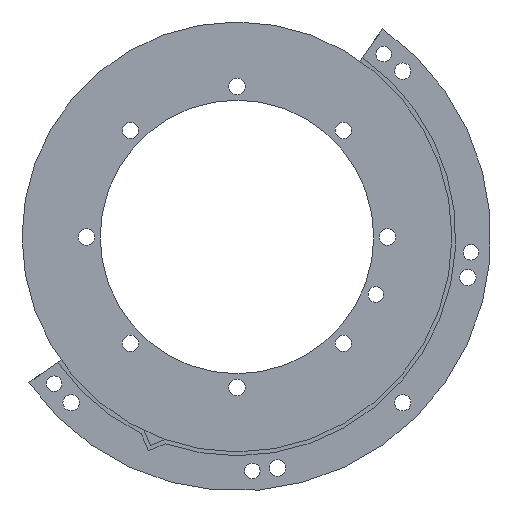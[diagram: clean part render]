
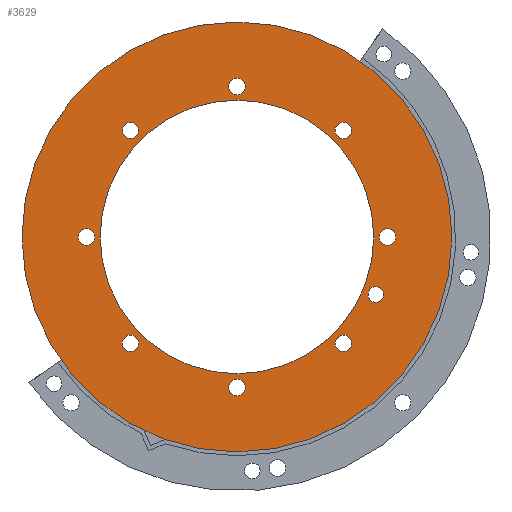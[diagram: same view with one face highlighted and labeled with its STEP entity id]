
A CAD part, front view. The second image highlights one B-rep face of the part: STEP entity #3629.
In plain terms, the highlighted planar face has unit normal (0, -1, 0).
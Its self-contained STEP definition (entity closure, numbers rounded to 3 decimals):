
#90 = FACE_OUTER_BOUND ( 'NONE', #2142, .T. ) ;
#111 = VERTEX_POINT ( 'NONE', #155 ) ;
#155 = CARTESIAN_POINT ( 'NONE',  ( 0., 0., -18.2 ) ) ;
#225 = CIRCLE ( 'NONE', #1048, 17.5 ) ;
#273 = FACE_BOUND ( 'NONE', #9563, .T. ) ;
#419 = DIRECTION ( 'NONE',  ( 0., 1., 0. ) ) ;
#480 = DIRECTION ( 'NONE',  ( 0., 1., 0. ) ) ;
#551 = DIRECTION ( 'NONE',  ( 0., 1., 0. ) ) ;
#589 = CARTESIAN_POINT ( 'NONE',  ( 0., 0., 0. ) ) ;
#618 = EDGE_LOOP ( 'NONE', ( #8562 ) ) ;
#679 = CARTESIAN_POINT ( 'NONE',  ( -19.25, 0., 1.05 ) ) ;
#684 = AXIS2_PLACEMENT_3D ( 'NONE', #9829, #419, #9172 ) ;
#698 = EDGE_LOOP ( 'NONE', ( #4777 ) ) ;
#731 = VERTEX_POINT ( 'NONE', #679 ) ;
#1048 = AXIS2_PLACEMENT_3D ( 'NONE', #589, #5452, #9435 ) ;
#1052 = FACE_BOUND ( 'NONE', #9439, .T. ) ;
#1161 = ORIENTED_EDGE ( 'NONE', *, *, #6258, .T. ) ;
#1222 = VERTEX_POINT ( 'NONE', #6410 ) ;
#1277 = CARTESIAN_POINT ( 'NONE',  ( 0., 0., 20.3 ) ) ;
#1604 = DIRECTION ( 'NONE',  ( 0., 0., 1. ) ) ;
#1657 = CARTESIAN_POINT ( 'NONE',  ( 0., 0., 0. ) ) ;
#1731 = AXIS2_PLACEMENT_3D ( 'NONE', #1657, #4076, #7971 ) ;
#1782 = DIRECTION ( 'NONE',  ( 0., 0., 1. ) ) ;
#1908 = EDGE_CURVE ( 'NONE', #731, #731, #9587, .T. ) ;
#1956 = ORIENTED_EDGE ( 'NONE', *, *, #6763, .T. ) ;
#1998 = VERTEX_POINT ( 'NONE', #5976 ) ;
#2081 = CARTESIAN_POINT ( 'NONE',  ( 0., 0., 19.25 ) ) ;
#2142 = EDGE_LOOP ( 'NONE', ( #2833 ) ) ;
#2153 = CARTESIAN_POINT ( 'NONE',  ( -13.612, 0., 14.662 ) ) ;
#2172 = EDGE_LOOP ( 'NONE', ( #9649 ) ) ;
#2180 = EDGE_CURVE ( 'NONE', #2387, #2387, #9102, .T. ) ;
#2373 = CIRCLE ( 'NONE', #6662, 1.05 ) ;
#2387 = VERTEX_POINT ( 'NONE', #10141 ) ;
#2391 = ORIENTED_EDGE ( 'NONE', *, *, #9835, .T. ) ;
#2482 = VERTEX_POINT ( 'NONE', #9807 ) ;
#2530 = AXIS2_PLACEMENT_3D ( 'NONE', #7594, #551, #8424 ) ;
#2833 = ORIENTED_EDGE ( 'NONE', *, *, #4354, .F. ) ;
#3011 = EDGE_CURVE ( 'NONE', #111, #111, #4970, .T. ) ;
#3057 = DIRECTION ( 'NONE',  ( 0., 1., 0. ) ) ;
#3074 = EDGE_LOOP ( 'NONE', ( #1161 ) ) ;
#3141 = EDGE_CURVE ( 'NONE', #1222, #1222, #6790, .T. ) ;
#3169 = DIRECTION ( 'NONE',  ( 0., 1., 0. ) ) ;
#3280 = FACE_BOUND ( 'NONE', #3074, .T. ) ;
#3425 = FACE_BOUND ( 'NONE', #618, .T. ) ;
#3483 = AXIS2_PLACEMENT_3D ( 'NONE', #5661, #8102, #1782 ) ;
#3518 = DIRECTION ( 'NONE',  ( 0., 0., 1. ) ) ;
#3582 = CIRCLE ( 'NONE', #9384, 1.05 ) ;
#3601 = ORIENTED_EDGE ( 'NONE', *, *, #3800, .T. ) ;
#3629 = ADVANCED_FACE ( 'NONE', ( #7176, #90, #7229, #1052, #4933, #4979, #273, #4155, #8055, #3425, #3280 ), #9545, .F. ) ;
#3707 = AXIS2_PLACEMENT_3D ( 'NONE', #7838, #3169, #3897 ) ;
#3800 = EDGE_CURVE ( 'NONE', #4128, #4128, #4825, .T. ) ;
#3831 = AXIS2_PLACEMENT_3D ( 'NONE', #9230, #480, #5860 ) ;
#3857 = VERTEX_POINT ( 'NONE', #2153 ) ;
#3867 = EDGE_LOOP ( 'NONE', ( #4816 ) ) ;
#3897 = DIRECTION ( 'NONE',  ( 0., 0., 1. ) ) ;
#4076 = DIRECTION ( 'NONE',  ( 0., 1., 0. ) ) ;
#4082 = VERTEX_POINT ( 'NONE', #7202 ) ;
#4128 = VERTEX_POINT ( 'NONE', #7546 ) ;
#4155 = FACE_BOUND ( 'NONE', #3867, .T. ) ;
#4354 = EDGE_CURVE ( 'NONE', #4082, #4082, #8676, .T. ) ;
#4508 = CIRCLE ( 'NONE', #2530, 1. ) ;
#4657 = CARTESIAN_POINT ( 'NONE',  ( -13.612, 0., -13.612 ) ) ;
#4777 = ORIENTED_EDGE ( 'NONE', *, *, #1908, .T. ) ;
#4804 = ORIENTED_EDGE ( 'NONE', *, *, #2180, .T. ) ;
#4816 = ORIENTED_EDGE ( 'NONE', *, *, #8277, .T. ) ;
#4825 = CIRCLE ( 'NONE', #3831, 1.05 ) ;
#4933 = FACE_BOUND ( 'NONE', #8482, .T. ) ;
#4970 = CIRCLE ( 'NONE', #684, 1.05 ) ;
#4979 = FACE_BOUND ( 'NONE', #698, .T. ) ;
#5093 = VERTEX_POINT ( 'NONE', #1277 ) ;
#5202 = DIRECTION ( 'NONE',  ( 0., 1., 0. ) ) ;
#5289 = AXIS2_PLACEMENT_3D ( 'NONE', #6648, #5202, #6749 ) ;
#5444 = DIRECTION ( 'NONE',  ( 0., 1., 0. ) ) ;
#5452 = DIRECTION ( 'NONE',  ( 0., 1., 0. ) ) ;
#5528 = DIRECTION ( 'NONE',  ( 0., 1., 0. ) ) ;
#5661 = CARTESIAN_POINT ( 'NONE',  ( 0., 0., 0. ) ) ;
#5682 = EDGE_CURVE ( 'NONE', #8317, #8317, #3582, .T. ) ;
#5786 = AXIS2_PLACEMENT_3D ( 'NONE', #9454, #5528, #1604 ) ;
#5860 = DIRECTION ( 'NONE',  ( 0., 0., 1. ) ) ;
#5976 = CARTESIAN_POINT ( 'NONE',  ( 0., 0., -17.5 ) ) ;
#6258 = EDGE_CURVE ( 'NONE', #2482, #2482, #4508, .T. ) ;
#6373 = DIRECTION ( 'NONE',  ( 0., 0., 1. ) ) ;
#6410 = CARTESIAN_POINT ( 'NONE',  ( -13.612, 0., -12.562 ) ) ;
#6648 = CARTESIAN_POINT ( 'NONE',  ( 13.612, 0., 13.612 ) ) ;
#6662 = AXIS2_PLACEMENT_3D ( 'NONE', #2081, #8294, #3518 ) ;
#6749 = DIRECTION ( 'NONE',  ( 0., 0., 1. ) ) ;
#6763 = EDGE_CURVE ( 'NONE', #1998, #1998, #225, .T. ) ;
#6790 = CIRCLE ( 'NONE', #8124, 1.05 ) ;
#7176 = FACE_BOUND ( 'NONE', #10089, .T. ) ;
#7202 = CARTESIAN_POINT ( 'NONE',  ( 0., 0., -27.5 ) ) ;
#7229 = FACE_BOUND ( 'NONE', #2172, .T. ) ;
#7359 = CIRCLE ( 'NONE', #3707, 1.05 ) ;
#7546 = CARTESIAN_POINT ( 'NONE',  ( 13.612, 0., -12.562 ) ) ;
#7594 = CARTESIAN_POINT ( 'NONE',  ( 17.778, 0., -7.364 ) ) ;
#7773 = DIRECTION ( 'NONE',  ( 0., 0., 1. ) ) ;
#7838 = CARTESIAN_POINT ( 'NONE',  ( -13.612, 0., 13.612 ) ) ;
#7971 = DIRECTION ( 'NONE',  ( 0., 0., -1. ) ) ;
#8055 = FACE_BOUND ( 'NONE', #10073, .T. ) ;
#8102 = DIRECTION ( 'NONE',  ( 0., 1., 0. ) ) ;
#8124 = AXIS2_PLACEMENT_3D ( 'NONE', #4657, #3057, #7773 ) ;
#8277 = EDGE_CURVE ( 'NONE', #5093, #5093, #2373, .T. ) ;
#8294 = DIRECTION ( 'NONE',  ( 0., 1., 0. ) ) ;
#8317 = VERTEX_POINT ( 'NONE', #8807 ) ;
#8424 = DIRECTION ( 'NONE',  ( 0., 0., 1. ) ) ;
#8482 = EDGE_LOOP ( 'NONE', ( #9408 ) ) ;
#8562 = ORIENTED_EDGE ( 'NONE', *, *, #5682, .T. ) ;
#8676 = CIRCLE ( 'NONE', #1731, 27.5 ) ;
#8807 = CARTESIAN_POINT ( 'NONE',  ( 19.25, 0., 1.05 ) ) ;
#9102 = CIRCLE ( 'NONE', #5289, 1.05 ) ;
#9172 = DIRECTION ( 'NONE',  ( 0., 0., 1. ) ) ;
#9230 = CARTESIAN_POINT ( 'NONE',  ( 13.612, 0., -13.612 ) ) ;
#9384 = AXIS2_PLACEMENT_3D ( 'NONE', #9481, #5444, #6373 ) ;
#9408 = ORIENTED_EDGE ( 'NONE', *, *, #3141, .T. ) ;
#9435 = DIRECTION ( 'NONE',  ( 0., 0., -1. ) ) ;
#9439 = EDGE_LOOP ( 'NONE', ( #3601 ) ) ;
#9454 = CARTESIAN_POINT ( 'NONE',  ( -19.25, 0., 0. ) ) ;
#9481 = CARTESIAN_POINT ( 'NONE',  ( 19.25, 0., 0. ) ) ;
#9545 = PLANE ( 'NONE',  #3483 ) ;
#9563 = EDGE_LOOP ( 'NONE', ( #2391 ) ) ;
#9587 = CIRCLE ( 'NONE', #5786, 1.05 ) ;
#9649 = ORIENTED_EDGE ( 'NONE', *, *, #3011, .T. ) ;
#9807 = CARTESIAN_POINT ( 'NONE',  ( 17.778, 0., -6.364 ) ) ;
#9829 = CARTESIAN_POINT ( 'NONE',  ( 0., 0., -19.25 ) ) ;
#9835 = EDGE_CURVE ( 'NONE', #3857, #3857, #7359, .T. ) ;
#10073 = EDGE_LOOP ( 'NONE', ( #4804 ) ) ;
#10089 = EDGE_LOOP ( 'NONE', ( #1956 ) ) ;
#10141 = CARTESIAN_POINT ( 'NONE',  ( 13.612, 0., 14.662 ) ) ;
